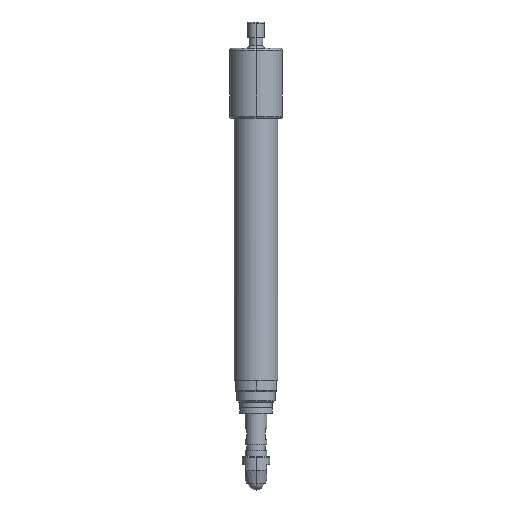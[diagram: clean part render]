
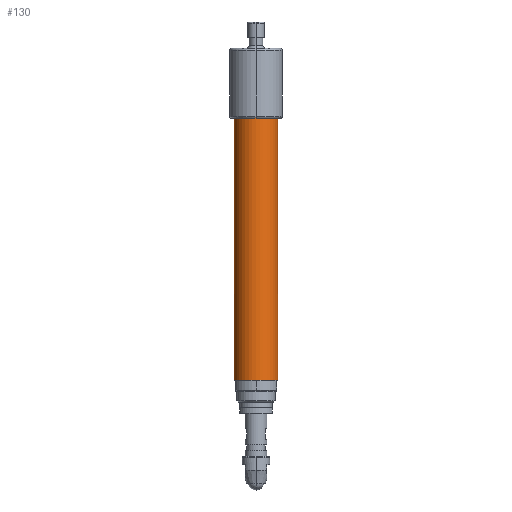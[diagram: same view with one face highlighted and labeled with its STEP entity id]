
A CAD part, front view. The second image highlights one B-rep face of the part: STEP entity #130.
In plain terms, the highlighted cylindrical face has radius 4 mm (diameter 8 mm), a partial arc.
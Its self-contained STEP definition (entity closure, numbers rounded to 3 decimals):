
#130 = ADVANCED_FACE ( 'NONE', ( #6505 ), #4946, .T. ) ;
#509 = ORIENTED_EDGE ( 'NONE', *, *, #9994, .T. ) ;
#665 = CARTESIAN_POINT ( 'NONE',  ( 2.047, -1.045, 47.2 ) ) ;
#788 = EDGE_LOOP ( 'NONE', ( #7236, #6612, #7954, #8098, #12759, #509, #1942, #9583 ) ) ;
#883 = DIRECTION ( 'NONE',  ( 0., 0., 1. ) ) ;
#1942 = ORIENTED_EDGE ( 'NONE', *, *, #10070, .T. ) ;
#2391 = CIRCLE ( 'NONE', #4139, 4. ) ;
#2467 = VERTEX_POINT ( 'NONE', #3809 ) ;
#2830 = VERTEX_POINT ( 'NONE', #8672 ) ;
#2874 = LINE ( 'NONE', #9916, #5203 ) ;
#3054 = VERTEX_POINT ( 'NONE', #12698 ) ;
#3416 = AXIS2_PLACEMENT_3D ( 'NONE', #12086, #12082, #12071 ) ;
#3433 = CARTESIAN_POINT ( 'NONE',  ( -1.703, 0.347, 47.2 ) ) ;
#3476 = AXIS2_PLACEMENT_3D ( 'NONE', #12222, #12210, #12204 ) ;
#3481 = CIRCLE ( 'NONE', #3476, 4. ) ;
#3530 = DIRECTION ( 'NONE',  ( -1., 0., 0. ) ) ;
#3809 = CARTESIAN_POINT ( 'NONE',  ( -5.453, -1.045, 43.2 ) ) ;
#3980 = LINE ( 'NONE', #665, #6278 ) ;
#4104 = CARTESIAN_POINT ( 'NONE',  ( -5.703, 0.347, 43.2 ) ) ;
#4139 = AXIS2_PLACEMENT_3D ( 'NONE', #12528, #12515, #12512 ) ;
#4372 = CARTESIAN_POINT ( 'NONE',  ( 2.297, 0.347, -9.6 ) ) ;
#4583 = AXIS2_PLACEMENT_3D ( 'NONE', #12488, #12475, #12471 ) ;
#4946 = CYLINDRICAL_SURFACE ( 'NONE', #5900, 4. ) ;
#5053 = LINE ( 'NONE', #12555, #7346 ) ;
#5203 = VECTOR ( 'NONE', #9888, 1000. ) ;
#5362 = VERTEX_POINT ( 'NONE', #7562 ) ;
#5900 = AXIS2_PLACEMENT_3D ( 'NONE', #3433, #8969, #3530 ) ;
#6055 = VERTEX_POINT ( 'NONE', #9377 ) ;
#6235 = CARTESIAN_POINT ( 'NONE',  ( 2.297, 0.347, 43.2 ) ) ;
#6278 = VECTOR ( 'NONE', #883, 1000. ) ;
#6505 = FACE_OUTER_BOUND ( 'NONE', #788, .T. ) ;
#6612 = ORIENTED_EDGE ( 'NONE', *, *, #9908, .T. ) ;
#7236 = ORIENTED_EDGE ( 'NONE', *, *, #10173, .F. ) ;
#7346 = VECTOR ( 'NONE', #12542, 1000. ) ;
#7562 = CARTESIAN_POINT ( 'NONE',  ( 2.047, -1.045, 43.2 ) ) ;
#7634 = CIRCLE ( 'NONE', #4583, 4. ) ;
#7954 = ORIENTED_EDGE ( 'NONE', *, *, #9856, .T. ) ;
#8098 = ORIENTED_EDGE ( 'NONE', *, *, #9907, .F. ) ;
#8556 = VERTEX_POINT ( 'NONE', #6235 ) ;
#8672 = CARTESIAN_POINT ( 'NONE',  ( -5.453, -1.045, 45.2 ) ) ;
#8875 = VERTEX_POINT ( 'NONE', #4104 ) ;
#8969 = DIRECTION ( 'NONE',  ( 0., 0., -1. ) ) ;
#9377 = CARTESIAN_POINT ( 'NONE',  ( -5.703, 0.347, -9.6 ) ) ;
#9583 = ORIENTED_EDGE ( 'NONE', *, *, #10012, .T. ) ;
#9856 = EDGE_CURVE ( 'NONE', #5362, #3054, #3980, .T. ) ;
#9888 = DIRECTION ( 'NONE',  ( 0., 0., -1. ) ) ;
#9907 = EDGE_CURVE ( 'NONE', #2830, #3054, #2391, .T. ) ;
#9908 = EDGE_CURVE ( 'NONE', #8556, #5362, #7634, .T. ) ;
#9916 = CARTESIAN_POINT ( 'NONE',  ( 2.297, 0.347, 47.2 ) ) ;
#9925 = EDGE_CURVE ( 'NONE', #2830, #2467, #5053, .T. ) ;
#9994 = EDGE_CURVE ( 'NONE', #2467, #8875, #3481, .T. ) ;
#10012 = EDGE_CURVE ( 'NONE', #6055, #12292, #11282, .T. ) ;
#10070 = EDGE_CURVE ( 'NONE', #8875, #6055, #10510, .T. ) ;
#10173 = EDGE_CURVE ( 'NONE', #8556, #12292, #2874, .T. ) ;
#10199 = VECTOR ( 'NONE', #10860, 1000. ) ;
#10510 = LINE ( 'NONE', #10904, #10199 ) ;
#10860 = DIRECTION ( 'NONE',  ( 0., 0., -1. ) ) ;
#10904 = CARTESIAN_POINT ( 'NONE',  ( -5.703, 0.347, 47.2 ) ) ;
#11282 = CIRCLE ( 'NONE', #3416, 4. ) ;
#12071 = DIRECTION ( 'NONE',  ( 1., 0., 0. ) ) ;
#12082 = DIRECTION ( 'NONE',  ( 0., 0., 1. ) ) ;
#12086 = CARTESIAN_POINT ( 'NONE',  ( -1.703, 0.347, -9.6 ) ) ;
#12204 = DIRECTION ( 'NONE',  ( -1., 0., 0. ) ) ;
#12210 = DIRECTION ( 'NONE',  ( 0., 0., -1. ) ) ;
#12222 = CARTESIAN_POINT ( 'NONE',  ( -1.703, 0.347, 43.2 ) ) ;
#12292 = VERTEX_POINT ( 'NONE', #4372 ) ;
#12471 = DIRECTION ( 'NONE',  ( -1., 0., 0. ) ) ;
#12475 = DIRECTION ( 'NONE',  ( 0., 0., -1. ) ) ;
#12488 = CARTESIAN_POINT ( 'NONE',  ( -1.703, 0.347, 43.2 ) ) ;
#12512 = DIRECTION ( 'NONE',  ( 1., 0., 0. ) ) ;
#12515 = DIRECTION ( 'NONE',  ( 0., 0., 1. ) ) ;
#12528 = CARTESIAN_POINT ( 'NONE',  ( -1.703, 0.347, 45.2 ) ) ;
#12542 = DIRECTION ( 'NONE',  ( 0., 0., -1. ) ) ;
#12555 = CARTESIAN_POINT ( 'NONE',  ( -5.453, -1.045, 47.2 ) ) ;
#12698 = CARTESIAN_POINT ( 'NONE',  ( 2.047, -1.045, 45.2 ) ) ;
#12759 = ORIENTED_EDGE ( 'NONE', *, *, #9925, .T. ) ;
